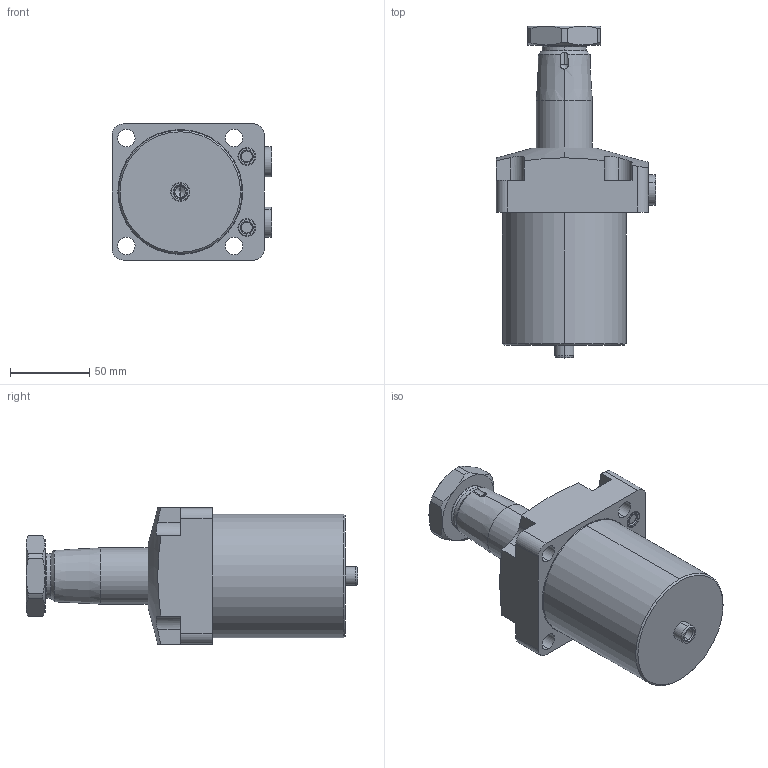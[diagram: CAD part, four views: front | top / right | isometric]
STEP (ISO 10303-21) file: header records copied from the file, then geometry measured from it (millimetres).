
FILE_DESCRIPTION(/* description */ (''),/* implementation_level */ '2;1');
FILE_NAME(/* name */ 'TRC16-LD.stp',/* time_stamp */ '2025-01-04T09:09:35+08:00',/* author */ (''),/* organization */ (''),/* preprocessor_version */ 'ST-DEVELOPER v16.7',/* originating_system */ 'SIEMENS PLM Software NX 12.0',/* authorisation */ '');
FILE_SCHEMA (('AUTOMOTIVE_DESIGN { 1 0 10303 214 3 1 1 1 }'));
Length unit declared in the file: millimetre
Products named in the file (5): TRC16-LD-04; TRC16-LD-03; TRC16-LD-02; TRC16-LD-01; TRC16-LD_stp
Assembly tree (5 placements, depth 2):
  TRC16-LD_stp
    TRC16-LD-01  x2
    TRC16-LD-02
    TRC16-LD-03
    TRC16-LD-04
Bounding box: 100.8 x 209.5 x 86 mm (x, y, z)
Volume: 732531.2 mm3; surface area: 83556.6 mm2
Topology: 5 solids, 7 shells, 219 faces, 501 edges, 309 vertices
Faces by surface type: cylinder 81, plane 69, cone 46, torus 22, sphere 1
Entity records: 5854 total; most frequent: CARTESIAN_POINT 1163, DIRECTION 1024, ORIENTED_EDGE 904, EDGE_CURVE 452, AXIS2_PLACEMENT_3D 422, VERTEX_POINT 281, EDGE_LOOP 227, CIRCLE 219
